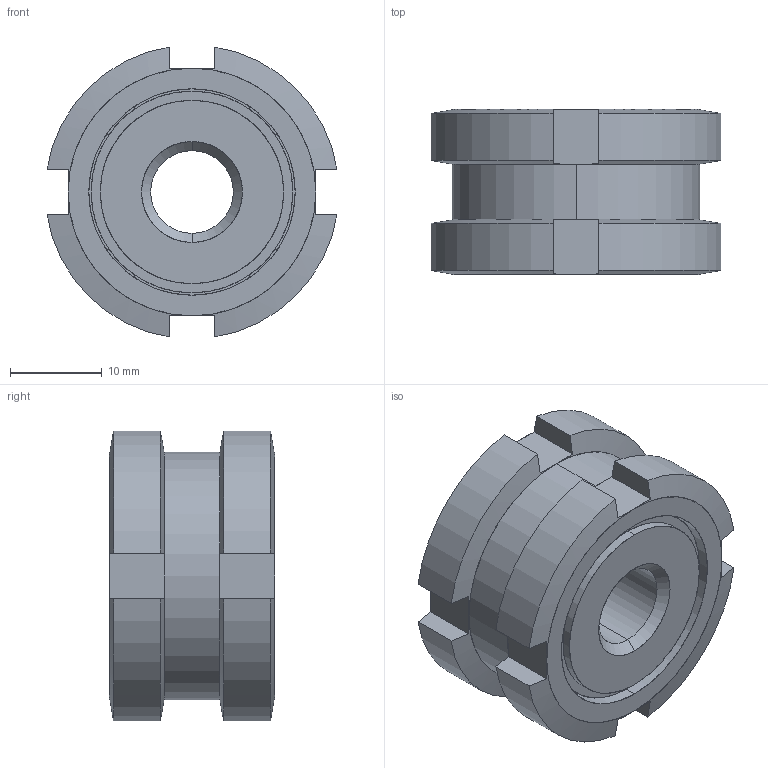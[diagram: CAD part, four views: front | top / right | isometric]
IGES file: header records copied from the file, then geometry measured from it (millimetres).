
Start section: SolidWorks IGES file using analytic representation for surfaces
Global section: file name: C:\Documents and Settings\IanO.IANOHOME\My Documents\Wix and Auto CAD Work\CAD Models\Parametric Models\Wix Models\6200\6200_IGES\6200.W051.igs; native system: SolidWorks 2009; preprocessor: SolidWorks 2009; author: IanO; date: 101017.134222; units: millimetre
Bounding box: 31.61 x 18 x 31.61 mm (x, y, z)
Surface area: 6232.4 mm2 (no closed solid volume)
Topology: 0 solids, 0 shells, 74 faces, 858 edges, 858 vertices
Faces by surface type: revolution 42, bspline 32
